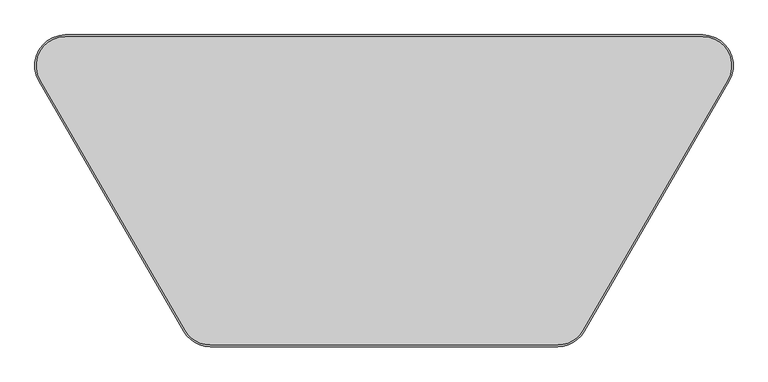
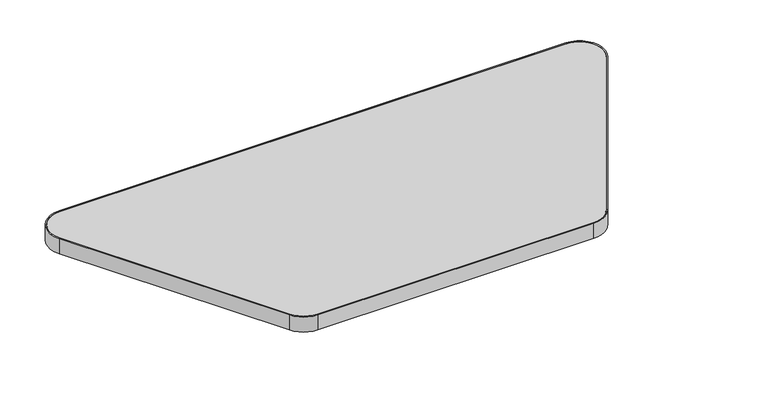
"""IFC4 building model written with IfcOpenShell, lengths in millimetres: furniture geometry, Steelcase - Groupwork - Table - Top - Trapezoid : 21 3/8D x 48W - HPL."""

from ifc_helpers import new_model, si_unit, point, frame, frame_2d, origin, place, context, project, spatial, polyline, circle_curve, trimmed, segment, composite_curve, outline, extrude, source, transform, mapped, element, save


def furniture_e3076a92(model_context):
    return source(origin(), model_context, "Body", "SweptSolid", [
        extrude(outline(composite_curve([segment(polyline([(917.5750495, -547.5606938), (307.975005, -547.5606938)]), True, "CONTINUOUS"), segment(trimmed(circle_curve(frame_2d((307.975005, -493.7126938)), 53.848), [point((307.975005, -547.5606938))], [point((261.341269, -520.6366937))], False, "CARTESIAN"), True, "CONTINUOUS"), segment(polyline([(261.341269, -520.6366937), (7.3412762, -80.6958)]), True, "CONTINUOUS"), segment(trimmed(circle_curve(frame_2d((53.9750122, -53.7718001)), 53.848), [point((7.3412762, -80.6958))], [point((53.9750122, 0.0761999))], False, "CARTESIAN"), True, "CONTINUOUS"), segment(polyline([(53.9750122, 0.0761999), (1171.5750128, 0.0761999)]), True, "CONTINUOUS"), segment(trimmed(circle_curve(frame_2d((1171.5750128, -53.7718001)), 53.848), [point((1171.5750128, 0.0761999))], [point((1218.2087501, -80.6957977))], False, "CARTESIAN"), True, "CONTINUOUS"), segment(polyline([(1218.2087501, -80.6957977), (964.2087869, -520.6366914)]), True, "CONTINUOUS"), segment(trimmed(circle_curve(frame_2d((917.5750495, -493.7126938)), 53.848), [point((964.2087869, -520.6366914))], [point((917.5750495, -547.5606938))], False, "CARTESIAN"), True, "CONTINUOUS")], self_intersect=False), holes=[composite_curve([segment(polyline([(9.9809216, -79.1718), (263.9809144, -519.1126937)]), True, "CONTINUOUS"), segment(trimmed(circle_curve(frame_2d((307.975005, -493.7126938)), 50.8), [point((263.9809144, -519.1126937))], [point((307.975005, -544.5126938))], True, "CARTESIAN"), True, "CONTINUOUS"), segment(polyline([(307.975005, -544.5126938), (917.5750495, -544.5126938)]), True, "CONTINUOUS"), segment(trimmed(circle_curve(frame_2d((917.5750495, -493.7126938)), 50.8), [point((917.5750495, -544.5126938))], [point((961.5691413, -519.1126915))], True, "CARTESIAN"), True, "CONTINUOUS"), segment(polyline([(961.5691413, -519.1126915), (1215.5691046, -79.1717978)]), True, "CONTINUOUS"), segment(trimmed(circle_curve(frame_2d((1171.5750128, -53.7718001)), 50.8), [point((1215.5691046, -79.1717978))], [point((1171.5750128, -2.9718001))], True, "CARTESIAN"), True, "CONTINUOUS"), segment(polyline([(1171.5750128, -2.9718001), (53.9750122, -2.9718001)]), True, "CONTINUOUS"), segment(trimmed(circle_curve(frame_2d((53.9750122, -53.7718001)), 50.8), [point((53.9750122, -2.9718001))], [point((9.9809216, -79.1718))], True, "CARTESIAN"), True, "CONTINUOUS")], self_intersect=False)]), frame((0.0, 0.0, 695.579), z_axis=(0.0, 0.0, 1.0), x_axis=(1.0, 0.0, 0.0)), (0.0, 0.0, 1.0), 35.052),
        extrude(outline(composite_curve([segment(polyline([(263.9809144, -519.1126937), (9.9809216, -79.1718)]), True, "CONTINUOUS"), segment(trimmed(circle_curve(frame_2d((53.9750122, -53.7718001)), 50.8), [point((9.9809216, -79.1718))], [point((53.9750122, -2.9718001))], False, "CARTESIAN"), True, "CONTINUOUS"), segment(polyline([(53.9750122, -2.9718001), (1171.5750128, -2.9718001)]), True, "CONTINUOUS"), segment(trimmed(circle_curve(frame_2d((1171.5750128, -53.7718001)), 50.8), [point((1171.5750128, -2.9718001))], [point((1215.5691046, -79.1717978))], False, "CARTESIAN"), True, "CONTINUOUS"), segment(polyline([(1215.5691046, -79.1717978), (961.5691413, -519.1126915)]), True, "CONTINUOUS"), segment(trimmed(circle_curve(frame_2d((917.5750495, -493.7126938)), 50.8), [point((961.5691413, -519.1126915))], [point((917.5750495, -544.5126938))], False, "CARTESIAN"), True, "CONTINUOUS"), segment(polyline([(917.5750495, -544.5126938), (307.975005, -544.5126938)]), True, "CONTINUOUS"), segment(trimmed(circle_curve(frame_2d((307.975005, -493.7126938)), 50.8), [point((307.975005, -544.5126938))], [point((263.9809144, -519.1126937))], False, "CARTESIAN"), True, "CONTINUOUS")], self_intersect=False)), frame((0.0, 0.0, 695.579), z_axis=(0.0, 0.0, 1.0), x_axis=(1.0, 0.0, 0.0)), (0.0, 0.0, 1.0), 35.052),
    ])


if __name__ == "__main__":
    model = new_model("IFC4")
    model_context = context("Model", 3, world=origin())
    ifc_project = project(units=[si_unit("LENGTHUNIT", "METRE", prefix="MILLI")], contexts=[model_context])
    site = spatial("IfcSite", under=ifc_project)
    building = spatial("IfcBuilding", under=site)
    placement = place(None, origin())
    furniture_shape = furniture_e3076a92(model_context)
    element("IfcFurniture", 1, ObjectType="Steelcase - Groupwork - Table - Top - Trapezoid : 21 3/8D x 48W - HPL", at=placement, inside=building, context=model_context, shape_type="MappedRepresentation", body=[
        mapped(furniture_shape, transform((0.0, 0.0, 0.0), x_axis=(1.0, 0.0, 0.0), y_axis=(0.0, 1.0, 0.0), z_axis=(0.0, 0.0, 1.0))),
    ])
    save(model, "model.ifc")
